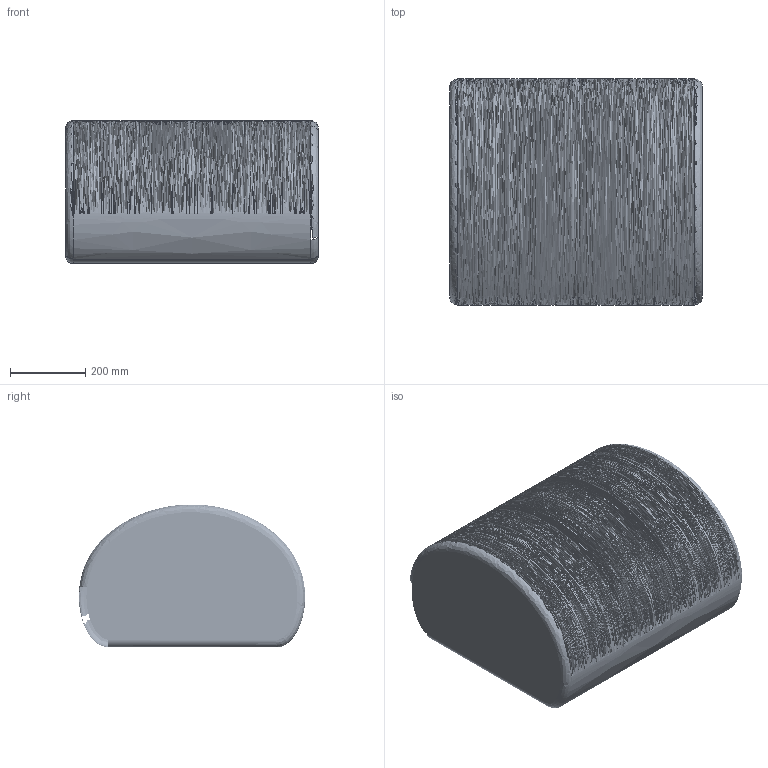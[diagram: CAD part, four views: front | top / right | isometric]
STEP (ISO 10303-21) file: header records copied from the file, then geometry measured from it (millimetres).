
FILE_DESCRIPTION(/* description */ (''),/* implementation_level */ '2;1');
FILE_NAME(/* name */ 'Rouli Pouf_3D',/* time_stamp */ '2024-03-06T12:44:18+01:00',/* author */ (''),/* organization */ (''),/* preprocessor_version */ 'ST-DEVELOPER v16.5',/* originating_system */ 'Rhino 7.36',/* authorisation */ '');
FILE_SCHEMA (('CONFIG_CONTROL_DESIGN'));
Length unit declared in the file: millimetre
Products named in the file (1): Document
Bounding box: 670 x 600.01 x 378.92 mm (x, y, z)
Volume: 65145247.5 mm3; surface area: 913467.5 mm2
Topology: 1 solids, 1 shells, 11 faces, 21 edges, 12 vertices
Faces by surface type: bspline 5, plane 3, cylinder 3
Entity records: 760 total; most frequent: CARTESIAN_POINT 542, ORIENTED_EDGE 42, EDGE_CURVE 21, VERTEX_POINT 12, ADVANCED_FACE 11, FACE_OUTER_BOUND 11, EDGE_LOOP 11, DIRECTION 10
